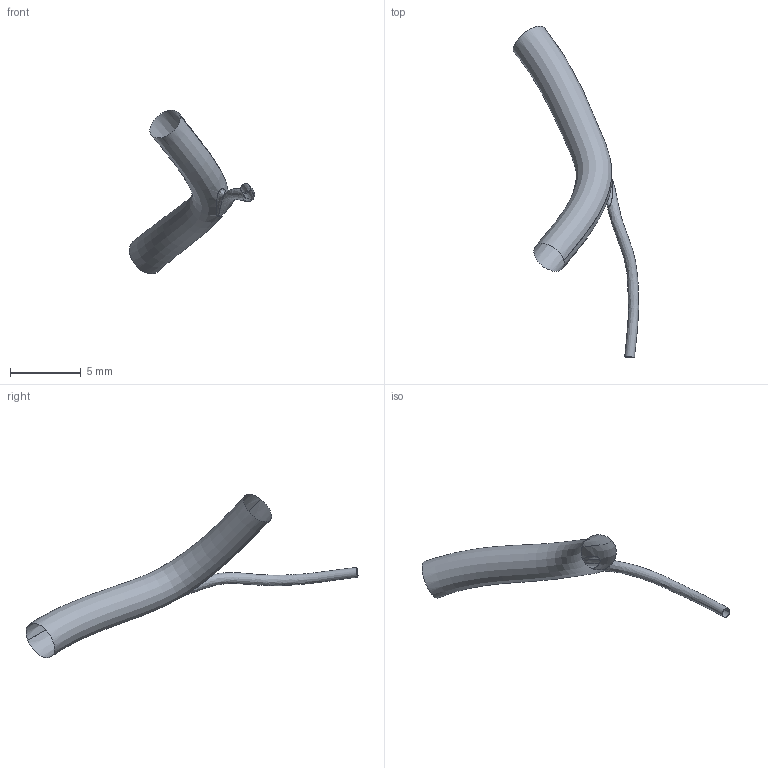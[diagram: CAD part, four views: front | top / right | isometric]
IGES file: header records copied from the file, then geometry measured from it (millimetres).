
Global section: file name: C:\Documents and Settings\Administrator\Desktop\FDA-Pig\Domestic RCA\Pig_000138\rv2.ed.igs; native system: Rhinoceros ( May 19 2006 ); preprocessor: Trout Lake IGES 012 May 19 2006; date: 111205.190012; units: centimetre
Bounding box: 8.85 x 23.44 x 11.54 mm (x, y, z)
Surface area: 191.5 mm2 (no closed solid volume)
Topology: 0 solids, 0 shells, 3 faces, 40 edges, 37 vertices
Faces by surface type: bspline 3
